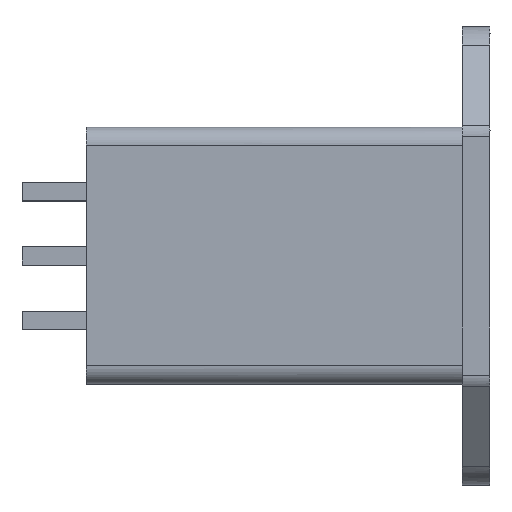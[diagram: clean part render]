
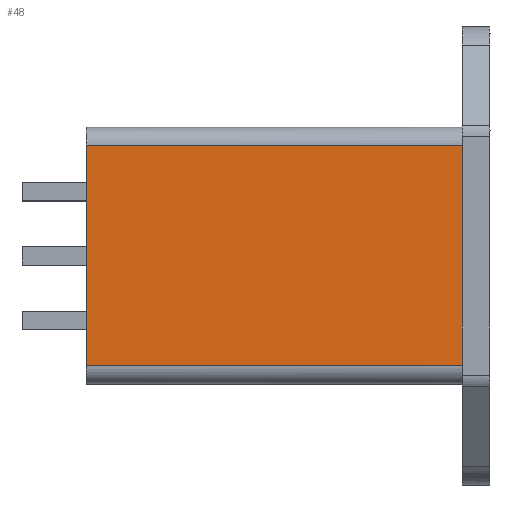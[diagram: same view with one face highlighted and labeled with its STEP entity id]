
A CAD part, top view. The second image highlights one B-rep face of the part: STEP entity #48.
In plain terms, the highlighted free-form (B-spline) face has degree [2, 1] with [3, 2] control points.
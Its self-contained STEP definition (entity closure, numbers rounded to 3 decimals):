
#48=ADVANCED_FACE('',(#139),#2984,.T.);
#139=FACE_OUTER_BOUND('',#230,.T.);
#230=EDGE_LOOP('',(#367,#368,#369,#370));
#367=ORIENTED_EDGE('',*,*,#2165,.T.);
#368=ORIENTED_EDGE('',*,*,#2166,.T.);
#369=ORIENTED_EDGE('',*,*,#2167,.T.);
#370=ORIENTED_EDGE('',*,*,#2163,.F.);
#793=(
BOUNDED_CURVE()
B_SPLINE_CURVE(1,(#3792,#3793),.UNSPECIFIED.,.F.,.F.)
B_SPLINE_CURVE_WITH_KNOTS((2,2),(0.,41.),.UNSPECIFIED.)
CURVE()
GEOMETRIC_REPRESENTATION_ITEM()
RATIONAL_B_SPLINE_CURVE((1.,1.))
REPRESENTATION_ITEM('')
);
#795=(
BOUNDED_CURVE()
B_SPLINE_CURVE(2,(#3803,#3804,#3805),.UNSPECIFIED.,.F.,.F.)
B_SPLINE_CURVE_WITH_KNOTS((3,3),(47.768,70.91),
 .UNSPECIFIED.)
CURVE()
GEOMETRIC_REPRESENTATION_ITEM()
RATIONAL_B_SPLINE_CURVE((1.,1.,1.))
REPRESENTATION_ITEM('')
);
#796=(
BOUNDED_CURVE()
B_SPLINE_CURVE(1,(#3808,#3809),.UNSPECIFIED.,.F.,.F.)
B_SPLINE_CURVE_WITH_KNOTS((2,2),(0.,41.),.UNSPECIFIED.)
CURVE()
GEOMETRIC_REPRESENTATION_ITEM()
RATIONAL_B_SPLINE_CURVE((1.,1.))
REPRESENTATION_ITEM('')
);
#797=(
BOUNDED_CURVE()
B_SPLINE_CURVE(2,(#3812,#3813,#3814),.UNSPECIFIED.,.F.,.F.)
B_SPLINE_CURVE_WITH_KNOTS((3,3),(-70.91,-47.768),
 .UNSPECIFIED.)
CURVE()
GEOMETRIC_REPRESENTATION_ITEM()
RATIONAL_B_SPLINE_CURVE((1.,1.,1.))
REPRESENTATION_ITEM('')
);
#805=(
BOUNDED_CURVE()
B_SPLINE_CURVE(2,(#3855,#3856,#3857),.UNSPECIFIED.,.F.,.F.)
B_SPLINE_CURVE_WITH_KNOTS((3,3),(47.768,70.91),
 .UNSPECIFIED.)
CURVE()
GEOMETRIC_REPRESENTATION_ITEM()
RATIONAL_B_SPLINE_CURVE((1.,1.,1.))
REPRESENTATION_ITEM('')
);
#1026=PCURVE('',#2983,#1482);
#1029=PCURVE('',#2984,#1485);
#1030=PCURVE('',#2984,#1486);
#1031=PCURVE('',#2984,#1487);
#1032=PCURVE('',#2984,#1488);
#1036=PCURVE('',#2985,#1492);
#1043=PCURVE('',#3041,#1499);
#1231=PCURVE('',#3044,#1687);
#1482=DEFINITIONAL_REPRESENTATION('',(#2418),#5404);
#1485=DEFINITIONAL_REPRESENTATION('',(#2421),#5404);
#1486=DEFINITIONAL_REPRESENTATION('',(#2422),#5404);
#1487=DEFINITIONAL_REPRESENTATION('',(#2423),#5404);
#1488=DEFINITIONAL_REPRESENTATION('',(#2424),#5404);
#1492=DEFINITIONAL_REPRESENTATION('',(#2428),#5404);
#1499=DEFINITIONAL_REPRESENTATION('',(#805),#5404);
#1687=DEFINITIONAL_REPRESENTATION('',(#2597),#5404);
#1935=SURFACE_CURVE('',#793,(#1026,#1032),.PCURVE_S1.);
#1937=SURFACE_CURVE('',#795,(#1029,#1043),.PCURVE_S1.);
#1938=SURFACE_CURVE('',#796,(#1030,#1036),.PCURVE_S1.);
#1939=SURFACE_CURVE('',#797,(#1031,#1231),.PCURVE_S1.);
#2163=EDGE_CURVE('',#2865,#2866,#1935,.T.);
#2165=EDGE_CURVE('',#2865,#2867,#1937,.T.);
#2166=EDGE_CURVE('',#2867,#2868,#1938,.T.);
#2167=EDGE_CURVE('',#2868,#2866,#1939,.T.);
#2418=B_SPLINE_CURVE_WITH_KNOTS('',1,(#3794,#3795),.UNSPECIFIED.,.F.,.F.,
(2,2),(0.,41.),.UNSPECIFIED.);
#2421=B_SPLINE_CURVE_WITH_KNOTS('',1,(#3806,#3807),.UNSPECIFIED.,.F.,.F.,
(2,2),(47.768,70.91),.UNSPECIFIED.);
#2422=B_SPLINE_CURVE_WITH_KNOTS('',1,(#3810,#3811),.UNSPECIFIED.,.F.,.F.,
(2,2),(0.,41.),.UNSPECIFIED.);
#2423=B_SPLINE_CURVE_WITH_KNOTS('',1,(#3815,#3816),.UNSPECIFIED.,.F.,.F.,
(2,2),(-70.91,-47.768),.UNSPECIFIED.);
#2424=B_SPLINE_CURVE_WITH_KNOTS('',1,(#3817,#3818),.UNSPECIFIED.,.F.,.F.,
(2,2),(0.,41.),.UNSPECIFIED.);
#2428=B_SPLINE_CURVE_WITH_KNOTS('',1,(#3833,#3834),.UNSPECIFIED.,.F.,.F.,
(2,2),(0.,41.),.UNSPECIFIED.);
#2597=B_SPLINE_CURVE_WITH_KNOTS('',1,(#4673,#4674),.UNSPECIFIED.,.F.,.F.,
(2,2),(-70.91,-47.768),.UNSPECIFIED.);
#2865=VERTEX_POINT('',#3511);
#2866=VERTEX_POINT('',#3512);
#2867=VERTEX_POINT('',#3513);
#2868=VERTEX_POINT('',#3514);
#2983=(
BOUNDED_SURFACE()
B_SPLINE_SURFACE(2,1,((#3166,#3167),(#3168,#3169),(#3170,#3171)),
 .UNSPECIFIED.,.F.,.F.,.F.)
B_SPLINE_SURFACE_WITH_KNOTS((3,3),(2,2),(44.626,47.768),
(0.,41.),.UNSPECIFIED.)
GEOMETRIC_REPRESENTATION_ITEM()
RATIONAL_B_SPLINE_SURFACE(((1.,1.),(0.707,0.707),
(1.,1.)))
REPRESENTATION_ITEM('')
SURFACE()
);
#2984=(
BOUNDED_SURFACE()
B_SPLINE_SURFACE(2,1,((#3172,#3173),(#3174,#3175),(#3176,#3177)),
 .UNSPECIFIED.,.F.,.F.,.F.)
B_SPLINE_SURFACE_WITH_KNOTS((3,3),(2,2),(47.768,70.91),
(0.,41.),.UNSPECIFIED.)
GEOMETRIC_REPRESENTATION_ITEM()
RATIONAL_B_SPLINE_SURFACE(((1.,1.),(1.,1.),(1.,1.)))
REPRESENTATION_ITEM('')
SURFACE()
);
#2985=(
BOUNDED_SURFACE()
B_SPLINE_SURFACE(2,1,((#3178,#3179),(#3180,#3181),(#3182,#3183)),
 .UNSPECIFIED.,.F.,.F.,.F.)
B_SPLINE_SURFACE_WITH_KNOTS((3,3),(2,2),(70.91,74.052),
(0.,41.),.UNSPECIFIED.)
GEOMETRIC_REPRESENTATION_ITEM()
RATIONAL_B_SPLINE_SURFACE(((1.,1.),(0.707,0.707),
(1.,1.)))
REPRESENTATION_ITEM('')
SURFACE()
);
#3041=PLANE('',#3088);
#3044=PLANE('',#3091);
#3088=AXIS2_PLACEMENT_3D('',#3468,#3118,$);
#3091=AXIS2_PLACEMENT_3D('',#3471,#3121,$);
#3118=DIRECTION('',(-1.,0.,0.));
#3121=DIRECTION('',(-1.,0.,0.));
#3166=CARTESIAN_POINT('',(782.,523.,-72.));
#3167=CARTESIAN_POINT('',(823.,523.,-72.));
#3168=CARTESIAN_POINT('',(782.,523.,-70.));
#3169=CARTESIAN_POINT('',(823.,523.,-70.));
#3170=CARTESIAN_POINT('',(782.,521.,-70.));
#3171=CARTESIAN_POINT('',(823.,521.,-70.));
#3172=CARTESIAN_POINT('',(782.,521.,-70.));
#3173=CARTESIAN_POINT('',(823.,521.,-70.));
#3174=CARTESIAN_POINT('',(782.,509.,-70.));
#3175=CARTESIAN_POINT('',(823.,509.,-70.));
#3176=CARTESIAN_POINT('',(782.,497.,-70.));
#3177=CARTESIAN_POINT('',(823.,497.,-70.));
#3178=CARTESIAN_POINT('',(782.,497.,-70.));
#3179=CARTESIAN_POINT('',(823.,497.,-70.));
#3180=CARTESIAN_POINT('',(782.,495.,-70.));
#3181=CARTESIAN_POINT('',(823.,495.,-70.));
#3182=CARTESIAN_POINT('',(782.,495.,-72.));
#3183=CARTESIAN_POINT('',(823.,495.,-72.));
#3468=CARTESIAN_POINT('',(782.,491.5,-92.5));
#3471=CARTESIAN_POINT('',(823.,477.75,-93.75));
#3511=CARTESIAN_POINT('',(782.,521.,-70.));
#3512=CARTESIAN_POINT('',(823.,521.,-70.));
#3513=CARTESIAN_POINT('',(782.,497.,-70.));
#3514=CARTESIAN_POINT('',(823.,497.,-70.));
#3792=CARTESIAN_POINT('',(782.,521.,-70.));
#3793=CARTESIAN_POINT('',(823.,521.,-70.));
#3794=CARTESIAN_POINT('',(47.768,0.));
#3795=CARTESIAN_POINT('',(47.768,41.));
#3803=CARTESIAN_POINT('',(782.,521.,-70.));
#3804=CARTESIAN_POINT('',(782.,509.,-70.));
#3805=CARTESIAN_POINT('',(782.,497.,-70.));
#3806=CARTESIAN_POINT('',(47.768,0.));
#3807=CARTESIAN_POINT('',(70.91,0.));
#3808=CARTESIAN_POINT('',(782.,497.,-70.));
#3809=CARTESIAN_POINT('',(823.,497.,-70.));
#3810=CARTESIAN_POINT('',(70.91,0.));
#3811=CARTESIAN_POINT('',(70.91,41.));
#3812=CARTESIAN_POINT('',(823.,497.,-70.));
#3813=CARTESIAN_POINT('',(823.,509.,-70.));
#3814=CARTESIAN_POINT('',(823.,521.,-70.));
#3815=CARTESIAN_POINT('',(70.91,41.));
#3816=CARTESIAN_POINT('',(47.768,41.));
#3817=CARTESIAN_POINT('',(47.768,0.));
#3818=CARTESIAN_POINT('',(47.768,41.));
#3833=CARTESIAN_POINT('',(70.91,0.));
#3834=CARTESIAN_POINT('',(70.91,41.));
#3855=CARTESIAN_POINT('',(18.,26.));
#3856=CARTESIAN_POINT('',(18.,14.));
#3857=CARTESIAN_POINT('',(18.,2.));
#4673=CARTESIAN_POINT('',(-0.6,-26.2));
#4674=CARTESIAN_POINT('',(-0.6,-2.2));
#5404=(
GEOMETRIC_REPRESENTATION_CONTEXT(2)
PARAMETRIC_REPRESENTATION_CONTEXT()
REPRESENTATION_CONTEXT('pspace','')
);
